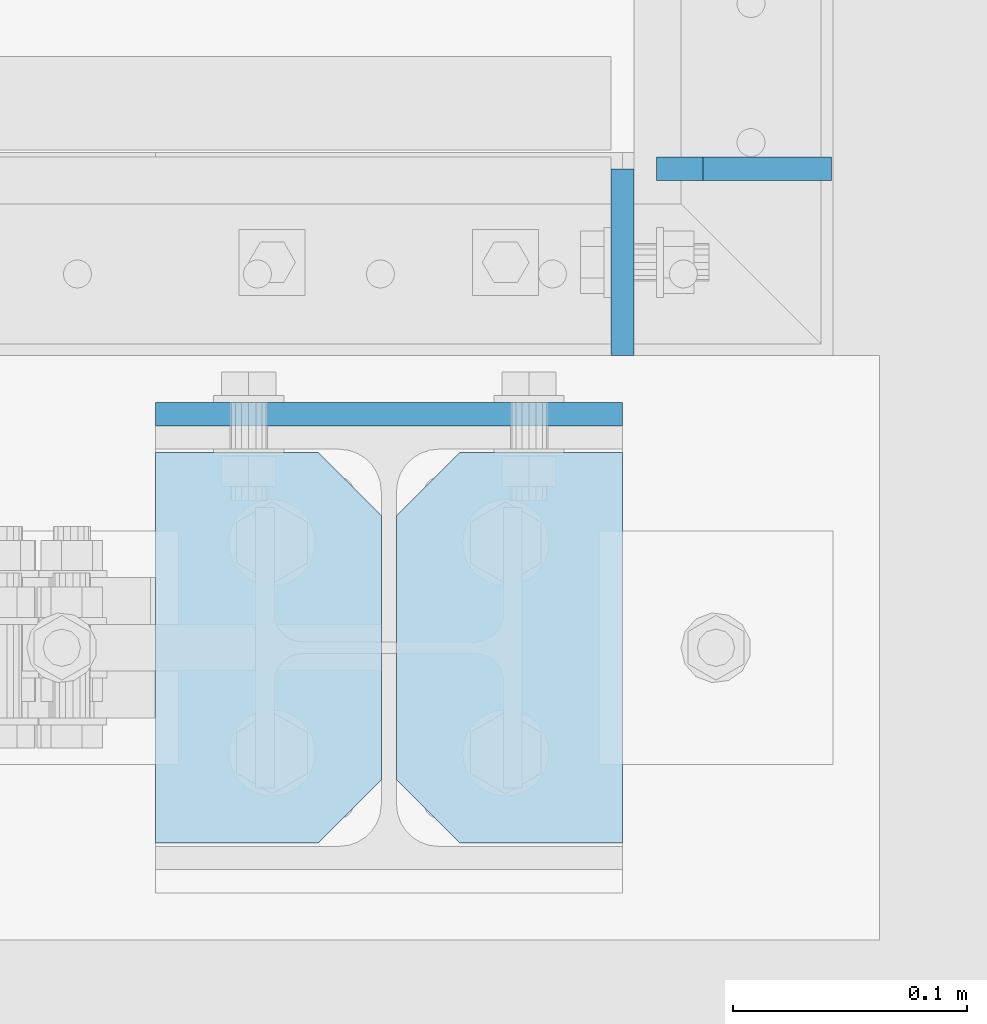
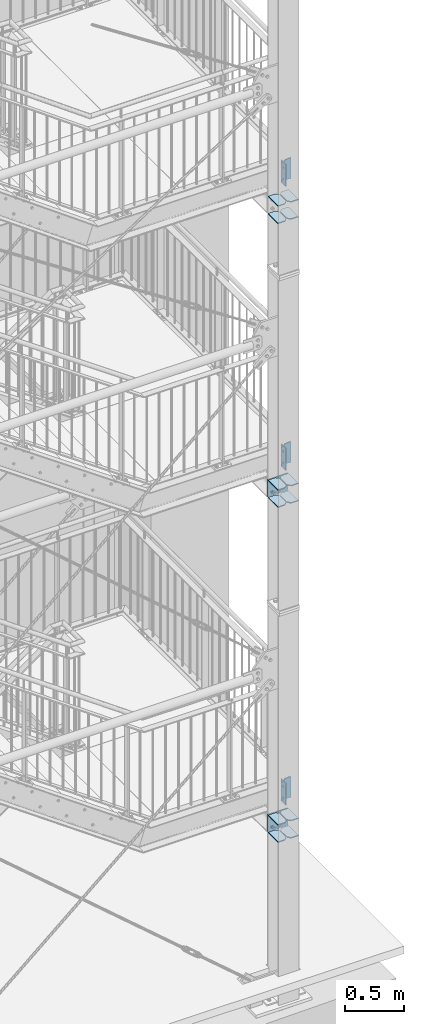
# One storey, part 198 of 825: 20 plates, 58 openings.
"""IFC2X3 building model written with IfcOpenShell, lengths in millimetres."""

from ifc_helpers import new_model, entity, si_unit, converted_unit, frame, frame_2d, origin, origin_with_axes, origin_2d_with_axis, place, context, project, spatial, polyline, circle, outline, extrude, material, layer, layer_set, element, save


model = new_model("IFC2X3")

# Units and contexts
model_context = context("Model", 3, precision=1e-09, world=origin_with_axes())
ifc_project = project(units=[si_unit("LENGTHUNIT", "METRE", prefix="MILLI"), si_unit("AREAUNIT", "SQUARE_METRE"), si_unit("VOLUMEUNIT", "CUBIC_METRE"), converted_unit("PLANEANGLEUNIT", "DEGREE", entity("IfcPlaneAngleMeasure", 0.01745329), si_unit("PLANEANGLEUNIT", "RADIAN"), dimensions=[0, 0, 0, 0, 0, 0, 0])], contexts=[model_context])

# Site, building, storey
site_placement = place(None, origin_with_axes())
site = spatial("IfcSite", under=ifc_project, at=site_placement, Name="Cnopf'sche Kinderklinik", CompositionType="ELEMENT")
building_placement = place(site_placement, origin_with_axes())
building = spatial("IfcBuilding", under=site, at=building_placement, Name="Struktur 1", CompositionType="ELEMENT")
storey_placement = place(building_placement, origin_with_axes())
storey = spatial("IfcBuildingStorey", under=building, at=storey_placement, Name="Default Storey", CompositionType="ELEMENT", Elevation=0.0)

# Plate, openings
ifc_material = material(Name="S235JR")
ifc_layer = layer(ifc_material, 10.0)
ifc_layer_set = layer_set([ifc_layer], Name="S235JR")
plate_1_placement = place(None, frame((8863.463402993, 4450.236971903, 8386.0), z_axis=(0.0, 0.0, 1.0), x_axis=(-1.0, 0.0, 0.0)))
plate_1 = element("IfcPlate", 1, at=plate_1_placement, inside=storey, material=ifc_layer_set, Name="Stiffener#1", ObjectType="Stiffener#1", context=model_context, shape_type="SweptSolid", body=[
    extrude(outline(polyline([(0.0, 0.0), (96.75, 0.0), (96.75, 167.0), (0.0, 167.0), (0.0, 0.0)])), origin_with_axes(), (0.0, 0.0, 1.0), 10.0),
])
opening_1_placement = place(plate_1_placement, frame((0.0, 0.0, -0.01), z_axis=(0.0, 0.0, 1.0), x_axis=(1.0, 0.0, 0.0)))
element("IfcOpeningElement", 2, at=opening_1_placement, cuts=plate_1, ObjectType="Opening", context=model_context, shape_type="SweptSolid", body=[
    extrude(outline(polyline([(0.0, 167.0), (0.0, 140.0), (27.0, 167.0), (0.0, 167.0)])), origin(), (0.0, 0.0, 1.0), 10.02),
])
opening_2_placement = place(plate_1_placement, frame((0.0, 0.0, -0.01), z_axis=(0.0, 0.0, 1.0), x_axis=(1.0, 0.0, 0.0)))
element("IfcOpeningElement", 3, at=opening_2_placement, cuts=plate_1, ObjectType="Opening", context=model_context, shape_type="SweptSolid", body=[
    extrude(outline(polyline([(0.0, 0.0), (27.0, 0.0), (0.0, 27.0), (0.0, 0.0)])), origin(), (0.0, 0.0, 1.0), 10.02),
])

plate_2_placement = place(None, frame((8966.713402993, 4450.236971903, 8386.0), z_axis=(0.0, 0.0, 1.0), x_axis=(-1.0, 0.0, 0.0)))
plate_2 = element("IfcPlate", 4, at=plate_2_placement, inside=storey, material=ifc_layer_set, Name="Stiffener#2", ObjectType="Stiffener#2", context=model_context, shape_type="SweptSolid", body=[
    extrude(outline(polyline([(0.0, 0.0), (96.75, 0.0), (96.75, 167.0), (0.0, 167.0), (0.0, 0.0)])), origin_with_axes(), (0.0, 0.0, 1.0), 10.0),
])
opening_3_placement = place(plate_2_placement, frame((0.0, 0.0, -0.01), z_axis=(0.0, 0.0, 1.0), x_axis=(1.0, 0.0, 0.0)))
element("IfcOpeningElement", 5, at=opening_3_placement, cuts=plate_2, ObjectType="Opening", context=model_context, shape_type="SweptSolid", body=[
    extrude(outline(polyline([(96.75, 167.0), (69.75, 167.0), (96.75, 140.0), (96.75, 167.0)])), origin(), (0.0, 0.0, 1.0), 10.02),
])
opening_4_placement = place(plate_2_placement, frame((0.0, 0.0, -0.01), z_axis=(0.0, 0.0, 1.0), x_axis=(1.0, 0.0, 0.0)))
element("IfcOpeningElement", 6, at=opening_4_placement, cuts=plate_2, ObjectType="Opening", context=model_context, shape_type="SweptSolid", body=[
    extrude(outline(polyline([(96.75, 0.0), (96.75, 27.0), (69.75, 0.0), (96.75, 0.0)])), origin(), (0.0, 0.0, 1.0), 10.02),
])

plate_3_placement = place(None, frame((8766.713402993, 4450.236971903, 8216.0), z_axis=(0.0, 0.0, -1.0), x_axis=(1.0, 0.0, 0.0)))
plate_3 = element("IfcPlate", 7, at=plate_3_placement, inside=storey, material=ifc_layer_set, Name="Stiffener#3", ObjectType="Stiffener#3", context=model_context, shape_type="SweptSolid", body=[
    extrude(outline(polyline([(0.0, 0.0), (96.75, 0.0), (96.75, 167.0), (0.0, 167.0), (0.0, 0.0)])), origin_with_axes(), (0.0, 0.0, 1.0), 10.0),
])
opening_5_placement = place(plate_3_placement, frame((0.0, 0.0, -0.01), z_axis=(0.0, 0.0, 1.0), x_axis=(1.0, 0.0, 0.0)))
element("IfcOpeningElement", 8, at=opening_5_placement, cuts=plate_3, ObjectType="Opening", context=model_context, shape_type="SweptSolid", body=[
    extrude(outline(polyline([(96.75, 167.0), (69.75, 167.0), (96.75, 140.0), (96.75, 167.0)])), origin(), (0.0, 0.0, 1.0), 10.02),
])
opening_6_placement = place(plate_3_placement, frame((0.0, 0.0, -0.01), z_axis=(0.0, 0.0, 1.0), x_axis=(1.0, 0.0, 0.0)))
element("IfcOpeningElement", 9, at=opening_6_placement, cuts=plate_3, ObjectType="Opening", context=model_context, shape_type="SweptSolid", body=[
    extrude(outline(polyline([(96.75, 0.0), (96.75, 27.0), (69.75, 0.0), (96.75, 0.0)])), origin(), (0.0, 0.0, 1.0), 10.02),
])

plate_4_placement = place(None, frame((8869.963402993, 4450.236971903, 8216.0), z_axis=(0.0, 0.0, -1.0), x_axis=(1.0, 0.0, 0.0)))
plate_4 = element("IfcPlate", 10, at=plate_4_placement, inside=storey, material=ifc_layer_set, Name="Stiffener#4", ObjectType="Stiffener#4", context=model_context, shape_type="SweptSolid", body=[
    extrude(outline(polyline([(0.0, 0.0), (96.75, 0.0), (96.75, 167.0), (0.0, 167.0), (0.0, 0.0)])), origin_with_axes(), (0.0, 0.0, 1.0), 10.0),
])
opening_7_placement = place(plate_4_placement, frame((0.0, 0.0, -0.01), z_axis=(0.0, 0.0, 1.0), x_axis=(1.0, 0.0, 0.0)))
element("IfcOpeningElement", 11, at=opening_7_placement, cuts=plate_4, ObjectType="Opening", context=model_context, shape_type="SweptSolid", body=[
    extrude(outline(polyline([(0.0, 167.0), (0.0, 140.0), (27.0, 167.0), (0.0, 167.0)])), origin(), (0.0, 0.0, 1.0), 10.02),
])
opening_8_placement = place(plate_4_placement, frame((0.0, 0.0, -0.01), z_axis=(0.0, 0.0, 1.0), x_axis=(1.0, 0.0, 0.0)))
element("IfcOpeningElement", 12, at=opening_8_placement, cuts=plate_4, ObjectType="Opening", context=model_context, shape_type="SweptSolid", body=[
    extrude(outline(polyline([(0.0, 0.0), (27.0, 0.0), (0.0, 27.0), (0.0, 0.0)])), origin(), (0.0, 0.0, 1.0), 10.02),
])

plate_5_placement = place(None, frame((8981.213402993, 4566.736971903, 8618.855161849), z_axis=(0.0, 1.0, 0.0), x_axis=(0.996815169, 0.0, 0.079746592)))
plate_5 = element("IfcPlate", 13, at=plate_5_placement, inside=storey, material=ifc_layer_set, Name="Stiffener#1", ObjectType="Stiffener#1", context=model_context, shape_type="SweptSolid", body=[
    extrude(outline(polyline([(0.0, 0.0), (75.239625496, 0.0), (57.877952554, 217.017159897), (-16.404697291, 205.05517107), (0.0, 0.0)])), origin_with_axes(), (0.0, 0.0, 1.0), 10.0),
])
opening_9_placement = place(plate_5_placement, frame((0.0, 0.0, -0.01), z_axis=(0.0, 0.0, 1.0), x_axis=(1.0, 0.0, 0.0)))
element("IfcOpeningElement", 14, at=opening_9_placement, cuts=plate_5, ObjectType="Opening", context=model_context, shape_type="SweptSolid", body=[
    extrude(outline(polyline([(-16.404697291, 205.05517107), (-14.809765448, 185.118867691), (3.34092195, 208.23487558), (-16.404697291, 205.05517107)])), origin(), (0.0, 0.0, 1.0), 10.02),
])
opening_10_placement = place(plate_5_placement, frame((0.0, 0.0, -0.01), z_axis=(0.0, 0.0, 1.0), x_axis=(1.0, 0.0, 0.0)))
element("IfcOpeningElement", 15, at=opening_10_placement, cuts=plate_5, ObjectType="Opening", context=model_context, shape_type="SweptSolid", body=[
    extrude(outline(polyline([(0.0, 0.0), (20.0, 0.0), (-1.594931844, 19.936303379), (0.0, 0.0)])), origin(), (0.0, 0.0, 1.0), 10.02),
])

plate_6_placement = place(None, frame((8981.213402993, 4566.736971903, 5657.749898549), z_axis=(0.0, 1.0, 0.0), x_axis=(0.996815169, 0.0, 0.079746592)))
plate_6 = element("IfcPlate", 16, at=plate_6_placement, inside=storey, material=ifc_layer_set, Name="Stiffener#1", ObjectType="Stiffener#1", context=model_context, shape_type="SweptSolid", body=[
    extrude(outline(polyline([(0.0, 0.0), (75.239625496, 0.0), (57.877952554, 217.017159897), (-16.404697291, 205.05517107), (0.0, 0.0)])), origin_with_axes(), (0.0, 0.0, 1.0), 10.0),
])
opening_11_placement = place(plate_6_placement, frame((0.0, 0.0, -0.01), z_axis=(0.0, 0.0, 1.0), x_axis=(1.0, 0.0, 0.0)))
element("IfcOpeningElement", 17, at=opening_11_placement, cuts=plate_6, ObjectType="Opening", context=model_context, shape_type="SweptSolid", body=[
    extrude(outline(polyline([(-16.404697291, 205.05517107), (-14.809765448, 185.118867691), (3.34092195, 208.23487558), (-16.404697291, 205.05517107)])), origin(), (0.0, 0.0, 1.0), 10.02),
])
opening_12_placement = place(plate_6_placement, frame((0.0, 0.0, -0.01), z_axis=(0.0, 0.0, 1.0), x_axis=(1.0, 0.0, 0.0)))
element("IfcOpeningElement", 18, at=opening_12_placement, cuts=plate_6, ObjectType="Opening", context=model_context, shape_type="SweptSolid", body=[
    extrude(outline(polyline([(0.0, 0.0), (20.0, 0.0), (-1.594931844, 19.936303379), (0.0, 0.0)])), origin(), (0.0, 0.0, 1.0), 10.02),
])

plate_7_placement = place(None, frame((8866.713402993, 4471.736971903, 5339.8947367), z_axis=(0.0, -1.0, 0.0), x_axis=(0.0, 0.0, -1.0)))
plate_7 = element("IfcPlate", 19, at=plate_7_placement, inside=storey, material=ifc_layer_set, Name="Endplate", ObjectType="Endplate", context=model_context, shape_type="SweptSolid", body=[
    extrude(outline(polyline([(-90.0, -100.0), (90.0, -100.0), (90.0, 100.0), (-90.0, 100.0), (-90.0, -100.0)])), origin_with_axes(), (0.0, 0.0, 1.0), 10.0),
])
opening_13_placement = place(plate_7_placement, frame((-67.0, -21.25, 10.5), z_axis=(0.0, 0.0, -1.0), x_axis=(1.0, 0.0, 0.0)))
element("IfcOpeningElement", 20, at=opening_13_placement, cuts=plate_7, ObjectType="Opening", context=model_context, shape_type="SweptSolid", body=[
    extrude(circle(Radius=6.001, at=origin_2d_with_axis()), origin(), (0.0, 0.0, 1.0), 11.0),
])
opening_14_placement = place(plate_7_placement, frame((67.0, -21.25, 10.5), z_axis=(0.0, 0.0, -1.0), x_axis=(1.0, 0.0, 0.0)))
element("IfcOpeningElement", 21, at=opening_14_placement, cuts=plate_7, ObjectType="Opening", context=model_context, shape_type="SweptSolid", body=[
    extrude(circle(Radius=6.001, at=origin_2d_with_axis()), origin(), (0.0, 0.0, 1.0), 11.0),
])
opening_15_placement = place(plate_7_placement, frame((67.0, 21.25, 10.5), z_axis=(0.0, 0.0, -1.0), x_axis=(1.0, 0.0, 0.0)))
element("IfcOpeningElement", 22, at=opening_15_placement, cuts=plate_7, ObjectType="Opening", context=model_context, shape_type="SweptSolid", body=[
    extrude(circle(Radius=6.001, at=origin_2d_with_axis()), origin(), (0.0, 0.0, 1.0), 11.0),
])
opening_16_placement = place(plate_7_placement, frame((-67.0, 21.25, 10.5), z_axis=(0.0, 0.0, -1.0), x_axis=(1.0, 0.0, 0.0)))
element("IfcOpeningElement", 23, at=opening_16_placement, cuts=plate_7, ObjectType="Opening", context=model_context, shape_type="SweptSolid", body=[
    extrude(circle(Radius=6.001, at=origin_2d_with_axis()), origin(), (0.0, 0.0, 1.0), 11.0),
])
opening_17_placement = place(plate_7_placement, frame((-45.0, 60.0, 10.5), z_axis=(0.0, 0.0, -1.0), x_axis=(0.0, 1.0, 0.0)))
element("IfcOpeningElement", 24, at=opening_17_placement, cuts=plate_7, ObjectType="Opening", context=model_context, shape_type="SweptSolid", body=[
    extrude(circle(Radius=9.001, at=origin_2d_with_axis()), origin(), (0.0, 0.0, 1.0), 11.0),
])
opening_18_placement = place(plate_7_placement, frame((45.0, 60.0, 10.5), z_axis=(0.0, 0.0, -1.0), x_axis=(0.0, 1.0, 0.0)))
element("IfcOpeningElement", 25, at=opening_18_placement, cuts=plate_7, ObjectType="Opening", context=model_context, shape_type="SweptSolid", body=[
    extrude(circle(Radius=9.001, at=origin_2d_with_axis()), origin(), (0.0, 0.0, 1.0), 11.0),
])
opening_19_placement = place(plate_7_placement, frame((45.0, -60.0, 10.5), z_axis=(0.0, 0.0, -1.0), x_axis=(0.0, -1.0, 0.0)))
element("IfcOpeningElement", 26, at=opening_19_placement, cuts=plate_7, ObjectType="Opening", context=model_context, shape_type="SweptSolid", body=[
    extrude(circle(Radius=9.001, at=origin_2d_with_axis()), origin(), (0.0, 0.0, 1.0), 11.0),
])
opening_20_placement = place(plate_7_placement, frame((-45.0, -60.0, 10.5), z_axis=(0.0, 0.0, -1.0), x_axis=(0.0, -1.0, 0.0)))
element("IfcOpeningElement", 27, at=opening_20_placement, cuts=plate_7, ObjectType="Opening", context=model_context, shape_type="SweptSolid", body=[
    extrude(circle(Radius=9.001, at=origin_2d_with_axis()), origin(), (0.0, 0.0, 1.0), 11.0),
])

plate_8_placement = place(None, frame((8863.463402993, 4450.236971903, 5424.8947367), z_axis=(0.0, 0.0, 1.0), x_axis=(-1.0, 0.0, 0.0)))
plate_8 = element("IfcPlate", 28, at=plate_8_placement, inside=storey, material=ifc_layer_set, Name="Stiffener#1", ObjectType="Stiffener#1", context=model_context, shape_type="SweptSolid", body=[
    extrude(outline(polyline([(0.0, 0.0), (96.75, 0.0), (96.75, 167.0), (0.0, 167.0), (0.0, 0.0)])), origin_with_axes(), (0.0, 0.0, 1.0), 10.0),
])
opening_21_placement = place(plate_8_placement, frame((0.0, 0.0, -0.01), z_axis=(0.0, 0.0, 1.0), x_axis=(1.0, 0.0, 0.0)))
element("IfcOpeningElement", 29, at=opening_21_placement, cuts=plate_8, ObjectType="Opening", context=model_context, shape_type="SweptSolid", body=[
    extrude(outline(polyline([(0.0, 167.0), (0.0, 140.0), (27.0, 167.0), (0.0, 167.0)])), origin(), (0.0, 0.0, 1.0), 10.02),
])
opening_22_placement = place(plate_8_placement, frame((0.0, 0.0, -0.01), z_axis=(0.0, 0.0, 1.0), x_axis=(1.0, 0.0, 0.0)))
element("IfcOpeningElement", 30, at=opening_22_placement, cuts=plate_8, ObjectType="Opening", context=model_context, shape_type="SweptSolid", body=[
    extrude(outline(polyline([(0.0, 0.0), (27.0, 0.0), (0.0, 27.0), (0.0, 0.0)])), origin(), (0.0, 0.0, 1.0), 10.02),
])

plate_9_placement = place(None, frame((8966.713402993, 4450.236971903, 5424.8947367), z_axis=(0.0, 0.0, 1.0), x_axis=(-1.0, 0.0, 0.0)))
plate_9 = element("IfcPlate", 31, at=plate_9_placement, inside=storey, material=ifc_layer_set, Name="Stiffener#2", ObjectType="Stiffener#2", context=model_context, shape_type="SweptSolid", body=[
    extrude(outline(polyline([(0.0, 0.0), (96.75, 0.0), (96.75, 167.0), (0.0, 167.0), (0.0, 0.0)])), origin_with_axes(), (0.0, 0.0, 1.0), 10.0),
])
opening_23_placement = place(plate_9_placement, frame((0.0, 0.0, -0.01), z_axis=(0.0, 0.0, 1.0), x_axis=(1.0, 0.0, 0.0)))
element("IfcOpeningElement", 32, at=opening_23_placement, cuts=plate_9, ObjectType="Opening", context=model_context, shape_type="SweptSolid", body=[
    extrude(outline(polyline([(96.75, 167.0), (69.75, 167.0), (96.75, 140.0), (96.75, 167.0)])), origin(), (0.0, 0.0, 1.0), 10.02),
])
opening_24_placement = place(plate_9_placement, frame((0.0, 0.0, -0.01), z_axis=(0.0, 0.0, 1.0), x_axis=(1.0, 0.0, 0.0)))
element("IfcOpeningElement", 33, at=opening_24_placement, cuts=plate_9, ObjectType="Opening", context=model_context, shape_type="SweptSolid", body=[
    extrude(outline(polyline([(96.75, 0.0), (96.75, 27.0), (69.75, 0.0), (96.75, 0.0)])), origin(), (0.0, 0.0, 1.0), 10.02),
])

plate_10_placement = place(None, frame((8766.713402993, 4450.236971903, 5254.8947367), z_axis=(0.0, 0.0, -1.0), x_axis=(1.0, 0.0, 0.0)))
plate_10 = element("IfcPlate", 34, at=plate_10_placement, inside=storey, material=ifc_layer_set, Name="Stiffener#3", ObjectType="Stiffener#3", context=model_context, shape_type="SweptSolid", body=[
    extrude(outline(polyline([(0.0, 0.0), (96.75, 0.0), (96.75, 167.0), (0.0, 167.0), (0.0, 0.0)])), origin_with_axes(), (0.0, 0.0, 1.0), 10.0),
])
opening_25_placement = place(plate_10_placement, frame((0.0, 0.0, -0.01), z_axis=(0.0, 0.0, 1.0), x_axis=(1.0, 0.0, 0.0)))
element("IfcOpeningElement", 35, at=opening_25_placement, cuts=plate_10, ObjectType="Opening", context=model_context, shape_type="SweptSolid", body=[
    extrude(outline(polyline([(96.75, 167.0), (69.75, 167.0), (96.75, 140.0), (96.75, 167.0)])), origin(), (0.0, 0.0, 1.0), 10.02),
])
opening_26_placement = place(plate_10_placement, frame((0.0, 0.0, -0.01), z_axis=(0.0, 0.0, 1.0), x_axis=(1.0, 0.0, 0.0)))
element("IfcOpeningElement", 36, at=opening_26_placement, cuts=plate_10, ObjectType="Opening", context=model_context, shape_type="SweptSolid", body=[
    extrude(outline(polyline([(96.75, 0.0), (96.75, 27.0), (69.75, 0.0), (96.75, 0.0)])), origin(), (0.0, 0.0, 1.0), 10.02),
])

plate_11_placement = place(None, frame((8869.963402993, 4450.236971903, 5254.8947367), z_axis=(0.0, 0.0, -1.0), x_axis=(1.0, 0.0, 0.0)))
plate_11 = element("IfcPlate", 37, at=plate_11_placement, inside=storey, material=ifc_layer_set, Name="Stiffener#4", ObjectType="Stiffener#4", context=model_context, shape_type="SweptSolid", body=[
    extrude(outline(polyline([(0.0, 0.0), (96.75, 0.0), (96.75, 167.0), (0.0, 167.0), (0.0, 0.0)])), origin_with_axes(), (0.0, 0.0, 1.0), 10.0),
])
opening_27_placement = place(plate_11_placement, frame((0.0, 0.0, -0.01), z_axis=(0.0, 0.0, 1.0), x_axis=(1.0, 0.0, 0.0)))
element("IfcOpeningElement", 38, at=opening_27_placement, cuts=plate_11, ObjectType="Opening", context=model_context, shape_type="SweptSolid", body=[
    extrude(outline(polyline([(0.0, 167.0), (0.0, 140.0), (27.0, 167.0), (0.0, 167.0)])), origin(), (0.0, 0.0, 1.0), 10.02),
])
opening_28_placement = place(plate_11_placement, frame((0.0, 0.0, -0.01), z_axis=(0.0, 0.0, 1.0), x_axis=(1.0, 0.0, 0.0)))
element("IfcOpeningElement", 39, at=opening_28_placement, cuts=plate_11, ObjectType="Opening", context=model_context, shape_type="SweptSolid", body=[
    extrude(outline(polyline([(0.0, 0.0), (27.0, 0.0), (0.0, 27.0), (0.0, 0.0)])), origin(), (0.0, 0.0, 1.0), 10.02),
])

plate_12_placement = place(None, frame((8981.213402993, 4566.736971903, 2163.907793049), z_axis=(0.0, 1.0, 0.0), x_axis=(0.996815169, 0.0, 0.079746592)))
plate_12 = element("IfcPlate", 40, at=plate_12_placement, inside=storey, material=ifc_layer_set, Name="Stiffener#1", ObjectType="Stiffener#1", context=model_context, shape_type="SweptSolid", body=[
    extrude(outline(polyline([(0.0, 0.0), (75.239625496, 0.0), (57.877952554, 217.017159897), (-16.404697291, 205.05517107), (0.0, 0.0)])), origin_with_axes(), (0.0, 0.0, 1.0), 10.0),
])
opening_29_placement = place(plate_12_placement, frame((0.0, 0.0, -0.01), z_axis=(0.0, 0.0, 1.0), x_axis=(1.0, 0.0, 0.0)))
element("IfcOpeningElement", 41, at=opening_29_placement, cuts=plate_12, ObjectType="Opening", context=model_context, shape_type="SweptSolid", body=[
    extrude(outline(polyline([(-16.404697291, 205.05517107), (-14.809765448, 185.118867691), (3.34092195, 208.23487558), (-16.404697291, 205.05517107)])), origin(), (0.0, 0.0, 1.0), 10.02),
])
opening_30_placement = place(plate_12_placement, frame((0.0, 0.0, -0.01), z_axis=(0.0, 0.0, 1.0), x_axis=(1.0, 0.0, 0.0)))
element("IfcOpeningElement", 42, at=opening_30_placement, cuts=plate_12, ObjectType="Opening", context=model_context, shape_type="SweptSolid", body=[
    extrude(outline(polyline([(0.0, 0.0), (20.0, 0.0), (-1.594931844, 19.936303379), (0.0, 0.0)])), origin(), (0.0, 0.0, 1.0), 10.02),
])

plate_13_placement = place(None, frame((8866.713402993, 4471.736971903, 1846.0526312), z_axis=(0.0, -1.0, 0.0), x_axis=(0.0, 0.0, -1.0)))
plate_13 = element("IfcPlate", 43, at=plate_13_placement, inside=storey, material=ifc_layer_set, Name="Endplate", ObjectType="Endplate", context=model_context, shape_type="SweptSolid", body=[
    extrude(outline(polyline([(-90.0, -100.0), (90.0, -100.0), (90.0, 100.0), (-90.0, 100.0), (-90.0, -100.0)])), origin_with_axes(), (0.0, 0.0, 1.0), 10.0),
])
opening_31_placement = place(plate_13_placement, frame((-67.0, -21.25, 10.5), z_axis=(0.0, 0.0, -1.0), x_axis=(1.0, 0.0, 0.0)))
element("IfcOpeningElement", 44, at=opening_31_placement, cuts=plate_13, ObjectType="Opening", context=model_context, shape_type="SweptSolid", body=[
    extrude(circle(Radius=6.001, at=origin_2d_with_axis()), origin(), (0.0, 0.0, 1.0), 11.0),
])
opening_32_placement = place(plate_13_placement, frame((67.0, -21.25, 10.5), z_axis=(0.0, 0.0, -1.0), x_axis=(1.0, 0.0, 0.0)))
element("IfcOpeningElement", 45, at=opening_32_placement, cuts=plate_13, ObjectType="Opening", context=model_context, shape_type="SweptSolid", body=[
    extrude(circle(Radius=6.001, at=origin_2d_with_axis()), origin(), (0.0, 0.0, 1.0), 11.0),
])
opening_33_placement = place(plate_13_placement, frame((67.0, 21.25, 10.5), z_axis=(0.0, 0.0, -1.0), x_axis=(1.0, 0.0, 0.0)))
element("IfcOpeningElement", 46, at=opening_33_placement, cuts=plate_13, ObjectType="Opening", context=model_context, shape_type="SweptSolid", body=[
    extrude(circle(Radius=6.001, at=origin_2d_with_axis()), origin(), (0.0, 0.0, 1.0), 11.0),
])
opening_34_placement = place(plate_13_placement, frame((-67.0, 21.25, 10.5), z_axis=(0.0, 0.0, -1.0), x_axis=(1.0, 0.0, 0.0)))
element("IfcOpeningElement", 47, at=opening_34_placement, cuts=plate_13, ObjectType="Opening", context=model_context, shape_type="SweptSolid", body=[
    extrude(circle(Radius=6.001, at=origin_2d_with_axis()), origin(), (0.0, 0.0, 1.0), 11.0),
])
opening_35_placement = place(plate_13_placement, frame((45.0, -60.0, 10.5), z_axis=(0.0, 0.0, -1.0), x_axis=(0.0, -1.0, 0.0)))
element("IfcOpeningElement", 48, at=opening_35_placement, cuts=plate_13, ObjectType="Opening", context=model_context, shape_type="SweptSolid", body=[
    extrude(circle(Radius=9.001, at=origin_2d_with_axis()), origin(), (0.0, 0.0, 1.0), 11.0),
])
opening_36_placement = place(plate_13_placement, frame((-45.0, 60.0, 10.5), z_axis=(0.0, 0.0, -1.0), x_axis=(0.0, 1.0, 0.0)))
element("IfcOpeningElement", 49, at=opening_36_placement, cuts=plate_13, ObjectType="Opening", context=model_context, shape_type="SweptSolid", body=[
    extrude(circle(Radius=9.001, at=origin_2d_with_axis()), origin(), (0.0, 0.0, 1.0), 11.0),
])
opening_37_placement = place(plate_13_placement, frame((-45.0, -60.0, 10.5), z_axis=(0.0, 0.0, -1.0), x_axis=(0.0, -1.0, 0.0)))
element("IfcOpeningElement", 50, at=opening_37_placement, cuts=plate_13, ObjectType="Opening", context=model_context, shape_type="SweptSolid", body=[
    extrude(circle(Radius=9.001, at=origin_2d_with_axis()), origin(), (0.0, 0.0, 1.0), 11.0),
])
opening_38_placement = place(plate_13_placement, frame((45.0, 60.0, 10.5), z_axis=(0.0, 0.0, -1.0), x_axis=(0.0, 1.0, 0.0)))
element("IfcOpeningElement", 51, at=opening_38_placement, cuts=plate_13, ObjectType="Opening", context=model_context, shape_type="SweptSolid", body=[
    extrude(circle(Radius=9.001, at=origin_2d_with_axis()), origin(), (0.0, 0.0, 1.0), 11.0),
])

plate_14_placement = place(None, frame((8863.463402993, 4450.236971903, 1931.0526312), z_axis=(0.0, 0.0, 1.0), x_axis=(-1.0, 0.0, 0.0)))
plate_14 = element("IfcPlate", 52, at=plate_14_placement, inside=storey, material=ifc_layer_set, Name="Stiffener#1", ObjectType="Stiffener#1", context=model_context, shape_type="SweptSolid", body=[
    extrude(outline(polyline([(0.0, 0.0), (96.75, 0.0), (96.75, 167.0), (0.0, 167.0), (0.0, 0.0)])), origin_with_axes(), (0.0, 0.0, 1.0), 10.0),
])
opening_39_placement = place(plate_14_placement, frame((0.0, 0.0, -0.01), z_axis=(0.0, 0.0, 1.0), x_axis=(1.0, 0.0, 0.0)))
element("IfcOpeningElement", 53, at=opening_39_placement, cuts=plate_14, ObjectType="Opening", context=model_context, shape_type="SweptSolid", body=[
    extrude(outline(polyline([(0.0, 167.0), (0.0, 140.0), (27.0, 167.0), (0.0, 167.0)])), origin(), (0.0, 0.0, 1.0), 10.02),
])
opening_40_placement = place(plate_14_placement, frame((0.0, 0.0, -0.01), z_axis=(0.0, 0.0, 1.0), x_axis=(1.0, 0.0, 0.0)))
element("IfcOpeningElement", 54, at=opening_40_placement, cuts=plate_14, ObjectType="Opening", context=model_context, shape_type="SweptSolid", body=[
    extrude(outline(polyline([(0.0, 0.0), (27.0, 0.0), (0.0, 27.0), (0.0, 0.0)])), origin(), (0.0, 0.0, 1.0), 10.02),
])

plate_15_placement = place(None, frame((8966.713402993, 4450.236971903, 1931.0526312), z_axis=(0.0, 0.0, 1.0), x_axis=(-1.0, 0.0, 0.0)))
plate_15 = element("IfcPlate", 55, at=plate_15_placement, inside=storey, material=ifc_layer_set, Name="Stiffener#2", ObjectType="Stiffener#2", context=model_context, shape_type="SweptSolid", body=[
    extrude(outline(polyline([(0.0, 0.0), (96.75, 0.0), (96.75, 167.0), (0.0, 167.0), (0.0, 0.0)])), origin_with_axes(), (0.0, 0.0, 1.0), 10.0),
])
opening_41_placement = place(plate_15_placement, frame((0.0, 0.0, -0.01), z_axis=(0.0, 0.0, 1.0), x_axis=(1.0, 0.0, 0.0)))
element("IfcOpeningElement", 56, at=opening_41_placement, cuts=plate_15, ObjectType="Opening", context=model_context, shape_type="SweptSolid", body=[
    extrude(outline(polyline([(96.75, 167.0), (69.75, 167.0), (96.75, 140.0), (96.75, 167.0)])), origin(), (0.0, 0.0, 1.0), 10.02),
])
opening_42_placement = place(plate_15_placement, frame((0.0, 0.0, -0.01), z_axis=(0.0, 0.0, 1.0), x_axis=(1.0, 0.0, 0.0)))
element("IfcOpeningElement", 57, at=opening_42_placement, cuts=plate_15, ObjectType="Opening", context=model_context, shape_type="SweptSolid", body=[
    extrude(outline(polyline([(96.75, 0.0), (96.75, 27.0), (69.75, 0.0), (96.75, 0.0)])), origin(), (0.0, 0.0, 1.0), 10.02),
])

plate_16_placement = place(None, frame((8766.713402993, 4450.236971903, 1761.0526312), z_axis=(0.0, 0.0, -1.0), x_axis=(1.0, 0.0, 0.0)))
plate_16 = element("IfcPlate", 58, at=plate_16_placement, inside=storey, material=ifc_layer_set, Name="Stiffener#3", ObjectType="Stiffener#3", context=model_context, shape_type="SweptSolid", body=[
    extrude(outline(polyline([(0.0, 0.0), (96.75, 0.0), (96.75, 167.0), (0.0, 167.0), (0.0, 0.0)])), origin_with_axes(), (0.0, 0.0, 1.0), 10.0),
])
opening_43_placement = place(plate_16_placement, frame((0.0, 0.0, -0.01), z_axis=(0.0, 0.0, 1.0), x_axis=(1.0, 0.0, 0.0)))
element("IfcOpeningElement", 59, at=opening_43_placement, cuts=plate_16, ObjectType="Opening", context=model_context, shape_type="SweptSolid", body=[
    extrude(outline(polyline([(96.75, 167.0), (69.75, 167.0), (96.75, 140.0), (96.75, 167.0)])), origin(), (0.0, 0.0, 1.0), 10.02),
])
opening_44_placement = place(plate_16_placement, frame((0.0, 0.0, -0.01), z_axis=(0.0, 0.0, 1.0), x_axis=(1.0, 0.0, 0.0)))
element("IfcOpeningElement", 60, at=opening_44_placement, cuts=plate_16, ObjectType="Opening", context=model_context, shape_type="SweptSolid", body=[
    extrude(outline(polyline([(96.75, 0.0), (96.75, 27.0), (69.75, 0.0), (96.75, 0.0)])), origin(), (0.0, 0.0, 1.0), 10.02),
])

plate_17_placement = place(None, frame((8869.963402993, 4450.236971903, 1761.0526312), z_axis=(0.0, 0.0, -1.0), x_axis=(1.0, 0.0, 0.0)))
plate_17 = element("IfcPlate", 61, at=plate_17_placement, inside=storey, material=ifc_layer_set, Name="Stiffener#4", ObjectType="Stiffener#4", context=model_context, shape_type="SweptSolid", body=[
    extrude(outline(polyline([(0.0, 0.0), (96.75, 0.0), (96.75, 167.0), (0.0, 167.0), (0.0, 0.0)])), origin_with_axes(), (0.0, 0.0, 1.0), 10.0),
])
opening_45_placement = place(plate_17_placement, frame((0.0, 0.0, -0.01), z_axis=(0.0, 0.0, 1.0), x_axis=(1.0, 0.0, 0.0)))
element("IfcOpeningElement", 62, at=opening_45_placement, cuts=plate_17, ObjectType="Opening", context=model_context, shape_type="SweptSolid", body=[
    extrude(outline(polyline([(0.0, 167.0), (0.0, 140.0), (27.0, 167.0), (0.0, 167.0)])), origin(), (0.0, 0.0, 1.0), 10.02),
])
opening_46_placement = place(plate_17_placement, frame((0.0, 0.0, -0.01), z_axis=(0.0, 0.0, 1.0), x_axis=(1.0, 0.0, 0.0)))
element("IfcOpeningElement", 63, at=opening_46_placement, cuts=plate_17, ObjectType="Opening", context=model_context, shape_type="SweptSolid", body=[
    extrude(outline(polyline([(0.0, 0.0), (27.0, 0.0), (0.0, 27.0), (0.0, 0.0)])), origin(), (0.0, 0.0, 1.0), 10.02),
])

plate_18_placement = place(None, frame((8971.713402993, 4571.736971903, 2176.0526312), z_axis=(-1.0, 0.0, 0.0), x_axis=(0.0, 0.0, -1.0)))
plate_18 = element("IfcPlate", 64, at=plate_18_placement, inside=storey, material=ifc_layer_set, Name="Endplate", ObjectType="Endplate", context=model_context, shape_type="SweptSolid", body=[
    extrude(outline(polyline([(0.0, 0.0), (230.0, 0.0), (230.0, 80.0), (0.0, 80.0), (0.0, 0.0)])), origin_with_axes(), (0.0, 0.0, 1.0), 10.0),
])
opening_47_placement = place(plate_18_placement, frame((209.0, 17.5, -0.5), z_axis=(0.0, 0.0, 1.0), x_axis=(1.0, 0.0, 0.0)))
element("IfcOpeningElement", 65, at=opening_47_placement, cuts=plate_18, ObjectType="Opening", context=model_context, shape_type="SweptSolid", body=[
    extrude(circle(Radius=6.001, at=origin_2d_with_axis()), origin(), (0.0, 0.0, 1.0), 11.0),
])
opening_48_placement = place(plate_18_placement, frame((21.0, 17.5, -0.5), z_axis=(0.0, 0.0, 1.0), x_axis=(1.0, 0.0, 0.0)))
element("IfcOpeningElement", 66, at=opening_48_placement, cuts=plate_18, ObjectType="Opening", context=model_context, shape_type="SweptSolid", body=[
    extrude(circle(Radius=6.001, at=origin_2d_with_axis()), origin(), (0.0, 0.0, 1.0), 11.0),
])
opening_49_placement = place(plate_18_placement, frame((64.001, 40.0, -0.5), z_axis=(0.0, 0.0, -1.0), x_axis=(-1.0, 0.0, 0.0)))
element("IfcOpeningElement", 67, at=opening_49_placement, cuts=plate_18, ObjectType="Opening", context=model_context, shape_type="SweptSolid", body=[
    extrude(circle(Radius=9.001, at=frame_2d((9.001, 0.0), x_axis=(1.0, 0.0))), origin(), (0.0, 0.0, -1.0), 11.0),
])
opening_50_placement = place(plate_18_placement, frame((184.001, 40.0, -0.5), z_axis=(0.0, 0.0, -1.0), x_axis=(-1.0, 0.0, 0.0)))
element("IfcOpeningElement", 68, at=opening_50_placement, cuts=plate_18, ObjectType="Opening", context=model_context, shape_type="SweptSolid", body=[
    extrude(circle(Radius=9.001, at=frame_2d((9.001, 0.0), x_axis=(1.0, 0.0))), origin(), (0.0, 0.0, -1.0), 11.0),
])

plate_19_placement = place(None, frame((8971.713402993, 4571.736971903, 5669.8947367), z_axis=(-1.0, 0.0, 0.0), x_axis=(0.0, 0.0, -1.0)))
plate_19 = element("IfcPlate", 69, at=plate_19_placement, inside=storey, material=ifc_layer_set, Name="Endplate", ObjectType="Endplate", context=model_context, shape_type="SweptSolid", body=[
    extrude(outline(polyline([(0.0, 0.0), (230.0, 0.0), (230.0, 80.0), (0.0, 80.0), (0.0, 0.0)])), origin_with_axes(), (0.0, 0.0, 1.0), 10.0),
])
opening_51_placement = place(plate_19_placement, frame((209.0, 17.5, -0.5), z_axis=(0.0, 0.0, 1.0), x_axis=(1.0, 0.0, 0.0)))
element("IfcOpeningElement", 70, at=opening_51_placement, cuts=plate_19, ObjectType="Opening", context=model_context, shape_type="SweptSolid", body=[
    extrude(circle(Radius=6.001, at=origin_2d_with_axis()), origin(), (0.0, 0.0, 1.0), 11.0),
])
opening_52_placement = place(plate_19_placement, frame((21.0, 17.5, -0.5), z_axis=(0.0, 0.0, 1.0), x_axis=(1.0, 0.0, 0.0)))
element("IfcOpeningElement", 71, at=opening_52_placement, cuts=plate_19, ObjectType="Opening", context=model_context, shape_type="SweptSolid", body=[
    extrude(circle(Radius=6.001, at=origin_2d_with_axis()), origin(), (0.0, 0.0, 1.0), 11.0),
])
opening_53_placement = place(plate_19_placement, frame((64.001, 40.0, -0.5), z_axis=(0.0, 0.0, -1.0), x_axis=(-1.0, 0.0, 0.0)))
element("IfcOpeningElement", 72, at=opening_53_placement, cuts=plate_19, ObjectType="Opening", context=model_context, shape_type="SweptSolid", body=[
    extrude(circle(Radius=9.001, at=frame_2d((9.001, 0.0), x_axis=(1.0, 0.0))), origin(), (0.0, 0.0, -1.0), 11.0),
])
opening_54_placement = place(plate_19_placement, frame((184.001, 40.0, -0.5), z_axis=(0.0, 0.0, -1.0), x_axis=(-1.0, 0.0, 0.0)))
element("IfcOpeningElement", 73, at=opening_54_placement, cuts=plate_19, ObjectType="Opening", context=model_context, shape_type="SweptSolid", body=[
    extrude(circle(Radius=9.001, at=frame_2d((9.001, 0.0), x_axis=(1.0, 0.0))), origin(), (0.0, 0.0, -1.0), 11.0),
])

plate_20_placement = place(None, frame((8971.713402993, 4571.736971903, 8631.0), z_axis=(-1.0, 0.0, 0.0), x_axis=(0.0, 0.0, -1.0)))
plate_20 = element("IfcPlate", 74, at=plate_20_placement, inside=storey, material=ifc_layer_set, Name="Endplate", ObjectType="Endplate", context=model_context, shape_type="SweptSolid", body=[
    extrude(outline(polyline([(0.0, 0.0), (230.0, 0.0), (230.0, 80.0), (0.0, 80.0), (0.0, 0.0)])), origin_with_axes(), (0.0, 0.0, 1.0), 10.0),
])
opening_55_placement = place(plate_20_placement, frame((209.0, 17.5, -0.5), z_axis=(0.0, 0.0, 1.0), x_axis=(1.0, 0.0, 0.0)))
element("IfcOpeningElement", 75, at=opening_55_placement, cuts=plate_20, ObjectType="Opening", context=model_context, shape_type="SweptSolid", body=[
    extrude(circle(Radius=6.001, at=origin_2d_with_axis()), origin(), (0.0, 0.0, 1.0), 11.0),
])
opening_56_placement = place(plate_20_placement, frame((21.0, 17.5, -0.5), z_axis=(0.0, 0.0, 1.0), x_axis=(1.0, 0.0, 0.0)))
element("IfcOpeningElement", 76, at=opening_56_placement, cuts=plate_20, ObjectType="Opening", context=model_context, shape_type="SweptSolid", body=[
    extrude(circle(Radius=6.001, at=origin_2d_with_axis()), origin(), (0.0, 0.0, 1.0), 11.0),
])
opening_57_placement = place(plate_20_placement, frame((64.001, 40.0, -0.5), z_axis=(0.0, 0.0, -1.0), x_axis=(-1.0, 0.0, 0.0)))
element("IfcOpeningElement", 77, at=opening_57_placement, cuts=plate_20, ObjectType="Opening", context=model_context, shape_type="SweptSolid", body=[
    extrude(circle(Radius=9.001, at=frame_2d((9.001, 0.0), x_axis=(1.0, 0.0))), origin(), (0.0, 0.0, -1.0), 11.0),
])
opening_58_placement = place(plate_20_placement, frame((184.001, 40.0, -0.5), z_axis=(0.0, 0.0, -1.0), x_axis=(-1.0, 0.0, 0.0)))
element("IfcOpeningElement", 78, at=opening_58_placement, cuts=plate_20, ObjectType="Opening", context=model_context, shape_type="SweptSolid", body=[
    extrude(circle(Radius=9.001, at=frame_2d((9.001, 0.0), x_axis=(1.0, 0.0))), origin(), (0.0, 0.0, -1.0), 11.0),
])

save(model, "model.ifc")
